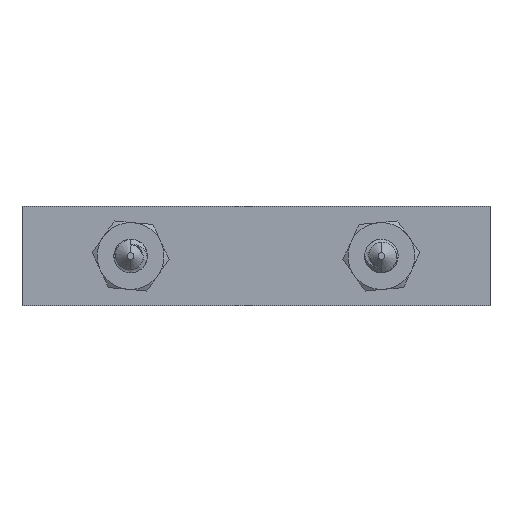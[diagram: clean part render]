
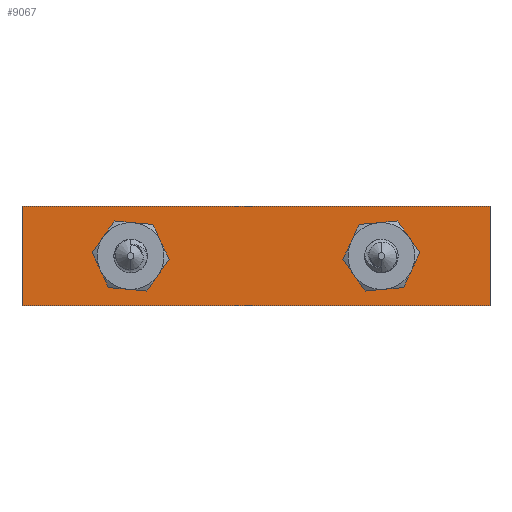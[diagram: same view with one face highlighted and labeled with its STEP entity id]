
A CAD part, front view. The second image highlights one B-rep face of the part: STEP entity #9067.
In plain terms, the highlighted planar face has unit normal (0, -1, 0).
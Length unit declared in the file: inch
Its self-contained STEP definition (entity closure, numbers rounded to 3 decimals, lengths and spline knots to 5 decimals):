
#183 = VERTEX_POINT ( 'NONE', #12167 ) ;
#309 = ORIENTED_EDGE ( 'NONE', *, *, #11827, .F. ) ;
#631 = VERTEX_POINT ( 'NONE', #8168 ) ;
#694 = EDGE_LOOP ( 'NONE', ( #8647, #6858, #11941, #309 ) ) ;
#840 = EDGE_CURVE ( 'Edge7', #3638, #4509, #15613, .T. ) ;
#925 = LINE ( 'NONE', #9928, #2823 ) ;
#1224 = VECTOR ( 'NONE', #6406, 39.37008 ) ;
#1473 = EDGE_CURVE ( 'Edge12', #6599, #183, #10182, .T. ) ;
#1543 = CARTESIAN_POINT ( 'NONE',  ( 3.5, 0.05, -0.37165 ) ) ;
#1923 = CARTESIAN_POINT ( 'NONE',  ( 0., 0.05, 0.37165 ) ) ;
#2069 = CARTESIAN_POINT ( 'NONE',  ( 2.6875, 0.05, 0.1875 ) ) ;
#2404 = DIRECTION ( 'NONE',  ( 0., 1., 0. ) ) ;
#2433 = CARTESIAN_POINT ( 'NONE',  ( 0.8125, 0.05, -0.1875 ) ) ;
#2470 = FACE_BOUND ( 'NONE', #4526, .T. ) ;
#2823 = VECTOR ( 'NONE', #16333, 39.37008 ) ;
#3146 = VECTOR ( 'NONE', #15607, 39.37008 ) ;
#3288 = ORIENTED_EDGE ( 'NONE', *, *, #840, .T. ) ;
#3356 = AXIS2_PLACEMENT_3D ( 'NONE', #11732, #7834, #13015 ) ;
#3590 = VERTEX_POINT ( 'NONE', #10789 ) ;
#3638 = VERTEX_POINT ( 'NONE', #9762 ) ;
#3747 = FACE_BOUND ( 'NONE', #7103, .T. ) ;
#3757 = CARTESIAN_POINT ( 'NONE',  ( 0., 0.05, 0. ) ) ;
#3838 = VECTOR ( 'NONE', #12825, 39.37008 ) ;
#4046 = DIRECTION ( 'NONE',  ( 0., 1., 0. ) ) ;
#4425 = CARTESIAN_POINT ( 'NONE',  ( 2.6875, 0.05, 0. ) ) ;
#4508 = CIRCLE ( 'NONE', #7766, 0.1875 ) ;
#4509 = VERTEX_POINT ( 'NONE', #2069 ) ;
#4526 = EDGE_LOOP ( 'NONE', ( #12421, #5329 ) ) ;
#4803 = EDGE_CURVE ( 'Edge6', #8318, #631, #10382, .T. ) ;
#5329 = ORIENTED_EDGE ( 'NONE', *, *, #6745, .T. ) ;
#5585 = AXIS2_PLACEMENT_3D ( 'NONE', #4425, #11122, #7793 ) ;
#6295 = LINE ( 'NONE', #16507, #3838 ) ;
#6406 = DIRECTION ( 'NONE',  ( 0., 0., -1. ) ) ;
#6599 = VERTEX_POINT ( 'NONE', #2433 ) ;
#6668 = EDGE_CURVE ( 'Edge13', #631, #16141, #15698, .T. ) ;
#6745 = EDGE_CURVE ( 'Edge12', #183, #6599, #4508, .T. ) ;
#6858 = ORIENTED_EDGE ( 'NONE', *, *, #4803, .T. ) ;
#7103 = EDGE_LOOP ( 'NONE', ( #3288, #15599 ) ) ;
#7417 = CIRCLE ( 'NONE', #14465, 0.1875 ) ;
#7712 = CARTESIAN_POINT ( 'NONE',  ( 0.8125, 0.05, 0. ) ) ;
#7766 = AXIS2_PLACEMENT_3D ( 'NONE', #7712, #4046, #7798 ) ;
#7793 = DIRECTION ( 'NONE',  ( 0., 0., 1. ) ) ;
#7798 = DIRECTION ( 'NONE',  ( 0., 0., -1. ) ) ;
#7834 = DIRECTION ( 'NONE',  ( 0., -1., 0. ) ) ;
#8168 = CARTESIAN_POINT ( 'NONE',  ( 0., 0.05, -0.37165 ) ) ;
#8217 = EDGE_CURVE ( 'Edge7', #4509, #3638, #7417, .T. ) ;
#8318 = VERTEX_POINT ( 'NONE', #1923 ) ;
#8647 = ORIENTED_EDGE ( 'NONE', *, *, #9963, .T. ) ;
#8941 = FACE_OUTER_BOUND ( 'NONE', #694, .T. ) ;
#9067 = ADVANCED_FACE ( 'Face6', ( #3747, #8941, #2470 ), #12841, .T. ) ;
#9651 = AXIS2_PLACEMENT_3D ( 'NONE', #10306, #2404, #15232 ) ;
#9762 = CARTESIAN_POINT ( 'NONE',  ( 2.6875, 0.05, -0.1875 ) ) ;
#9928 = CARTESIAN_POINT ( 'NONE',  ( 3.5, 0.05, 0.37165 ) ) ;
#9963 = EDGE_CURVE ( 'NONE', #3590, #8318, #925, .T. ) ;
#10182 = CIRCLE ( 'NONE', #9651, 0.1875 ) ;
#10306 = CARTESIAN_POINT ( 'NONE',  ( 0.8125, 0.05, 0. ) ) ;
#10382 = LINE ( 'NONE', #3757, #1224 ) ;
#10424 = CARTESIAN_POINT ( 'NONE',  ( 3.5, 0.05, -0.37165 ) ) ;
#10789 = CARTESIAN_POINT ( 'NONE',  ( 3.5, 0.05, 0.37165 ) ) ;
#10924 = CARTESIAN_POINT ( 'NONE',  ( 2.6875, 0.05, 0. ) ) ;
#11122 = DIRECTION ( 'NONE',  ( 0., 1., 0. ) ) ;
#11732 = CARTESIAN_POINT ( 'NONE',  ( 0., 0.05, 0. ) ) ;
#11827 = EDGE_CURVE ( 'Edge10', #3590, #16141, #6295, .T. ) ;
#11941 = ORIENTED_EDGE ( 'NONE', *, *, #6668, .T. ) ;
#12167 = CARTESIAN_POINT ( 'NONE',  ( 0.8125, 0.05, 0.1875 ) ) ;
#12421 = ORIENTED_EDGE ( 'NONE', *, *, #1473, .T. ) ;
#12825 = DIRECTION ( 'NONE',  ( 0., 0., -1. ) ) ;
#12841 = PLANE ( 'NONE',  #3356 ) ;
#13015 = DIRECTION ( 'NONE',  ( 0., 0., -1. ) ) ;
#14465 = AXIS2_PLACEMENT_3D ( 'NONE', #10924, #15778, #14496 ) ;
#14496 = DIRECTION ( 'NONE',  ( 0., 0., 1. ) ) ;
#15232 = DIRECTION ( 'NONE',  ( 0., 0., -1. ) ) ;
#15599 = ORIENTED_EDGE ( 'NONE', *, *, #8217, .T. ) ;
#15607 = DIRECTION ( 'NONE',  ( 1., 0., 0. ) ) ;
#15613 = CIRCLE ( 'NONE', #5585, 0.1875 ) ;
#15698 = LINE ( 'NONE', #10424, #3146 ) ;
#15778 = DIRECTION ( 'NONE',  ( 0., 1., 0. ) ) ;
#16141 = VERTEX_POINT ( 'NONE', #1543 ) ;
#16333 = DIRECTION ( 'NONE',  ( -1., 0., 0. ) ) ;
#16507 = CARTESIAN_POINT ( 'NONE',  ( 3.5, 0.05, 0.875 ) ) ;
